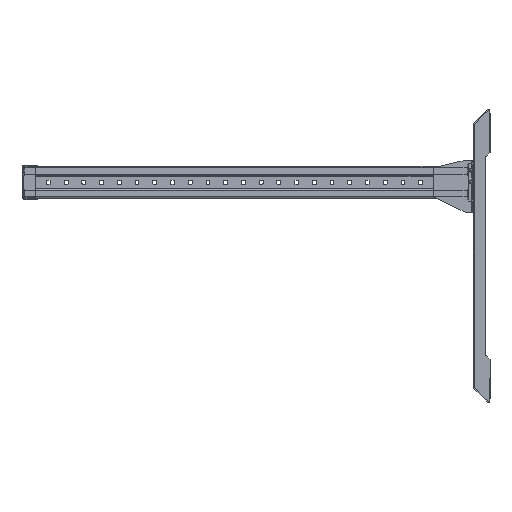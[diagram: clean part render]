
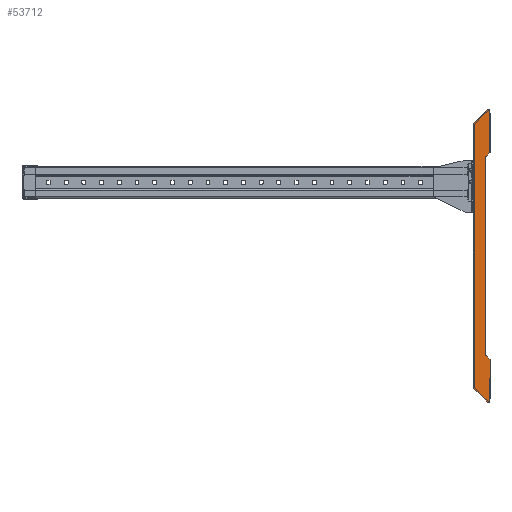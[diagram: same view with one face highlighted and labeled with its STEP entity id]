
A CAD part, left-side view. The second image highlights one B-rep face of the part: STEP entity #53712.
In plain terms, the highlighted planar face has unit normal (-1, 0, 0) as drawn and (1, 0, 0) by its records, which use the part's own axes.
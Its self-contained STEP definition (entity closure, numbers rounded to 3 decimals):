
#5956 = EDGE_CURVE ( 'NONE', #72643, #71926, #39613, .T. ) ;
#5957 = EDGE_CURVE ( 'NONE', #72643, #72867, #49933, .T. ) ;
#5958 = EDGE_CURVE ( 'NONE', #72867, #72719, #39601, .T. ) ;
#5959 = EDGE_CURVE ( 'NONE', #72719, #72161, #39595, .T. ) ;
#5964 = EDGE_CURVE ( 'NONE', #72528, #70157, #39565, .T. ) ;
#5965 = EDGE_CURVE ( 'NONE', #72964, #70157, #39559, .T. ) ;
#5966 = EDGE_CURVE ( 'NONE', #72803, #72964, #39553, .T. ) ;
#5967 = EDGE_CURVE ( 'NONE', #72803, #72810, #39547, .T. ) ;
#5968 = EDGE_CURVE ( 'NONE', #72810, #72750, #49932, .T. ) ;
#5969 = EDGE_CURVE ( 'NONE', #72750, #72263, #39535, .T. ) ;
#5970 = EDGE_CURVE ( 'NONE', #72263, #72431, #39529, .T. ) ;
#5971 = EDGE_CURVE ( 'NONE', #72431, #71926, #49930, .T. ) ;
#5978 = EDGE_CURVE ( 'NONE', #72528, #69821, #39481, .T. ) ;
#5979 = EDGE_CURVE ( 'NONE', #72161, #69821, #49929, .T. ) ;
#7746 = VECTOR ( 'NONE', #39549, 1000. ) ;
#7758 = VECTOR ( 'NONE', #39477, 1000. ) ;
#7762 = AXIS2_PLACEMENT_3D ( 'NONE', #39519, #39475, #39473 ) ;
#7766 = VECTOR ( 'NONE', #39525, 1000. ) ;
#7767 = VECTOR ( 'NONE', #39531, 1000. ) ;
#7768 = VECTOR ( 'NONE', #39543, 1000. ) ;
#7781 = AXIS2_PLACEMENT_3D ( 'NONE', #39615, #39607, #39605 ) ;
#7789 = VECTOR ( 'NONE', #39555, 1000. ) ;
#7794 = VECTOR ( 'NONE', #39597, 1000. ) ;
#7797 = VECTOR ( 'NONE', #39561, 1000. ) ;
#7801 = AXIS2_PLACEMENT_3D ( 'NONE', #39603, #39541, #39539 ) ;
#7804 = VECTOR ( 'NONE', #39609, 1000. ) ;
#7816 = AXIS2_PLACEMENT_3D ( 'NONE', #39537, #39523, #39521 ) ;
#7835 = VECTOR ( 'NONE', #39591, 1000. ) ;
#39473 = DIRECTION ( 'NONE',  ( 0., -1., 0. ) ) ;
#39475 = DIRECTION ( 'NONE',  ( 1., 0., 0. ) ) ;
#39477 = DIRECTION ( 'NONE',  ( 0., -0.707, -0.707 ) ) ;
#39479 = CARTESIAN_POINT ( 'NONE',  ( 50., 0.25, -331.75 ) ) ;
#39481 = LINE ( 'NONE', #39479, #7758 ) ;
#39519 = CARTESIAN_POINT ( 'NONE',  ( 50., -36.926, -363.977 ) ) ;
#39521 = DIRECTION ( 'NONE',  ( 0., 1., 0. ) ) ;
#39523 = DIRECTION ( 'NONE',  ( -1., 0., 0. ) ) ;
#39525 = DIRECTION ( 'NONE',  ( 0., 0.707, -0.707 ) ) ;
#39527 = CARTESIAN_POINT ( 'NONE',  ( 50., -40.426, 259.315 ) ) ;
#39529 = LINE ( 'NONE', #39527, #7766 ) ;
#39531 = DIRECTION ( 'NONE',  ( 0., 0., -1. ) ) ;
#39533 = CARTESIAN_POINT ( 'NONE',  ( 50., -40.426, 351.226 ) ) ;
#39535 = LINE ( 'NONE', #39533, #7767 ) ;
#39537 = CARTESIAN_POINT ( 'NONE',  ( 50., -37., 243.161 ) ) ;
#39539 = DIRECTION ( 'NONE',  ( 0., 1., 0. ) ) ;
#39541 = DIRECTION ( 'NONE',  ( 1., 0., 0. ) ) ;
#39543 = DIRECTION ( 'NONE',  ( 0., -0.707, 0.707 ) ) ;
#39545 = CARTESIAN_POINT ( 'NONE',  ( 50., 0.25, 331.75 ) ) ;
#39547 = LINE ( 'NONE', #39545, #7768 ) ;
#39549 = DIRECTION ( 'NONE',  ( 0., -0.707, -0.707 ) ) ;
#39551 = CARTESIAN_POINT ( 'NONE',  ( 50., 0.25, 331.75 ) ) ;
#39553 = LINE ( 'NONE', #39551, #7746 ) ;
#39555 = DIRECTION ( 'NONE',  ( 0., 0., -1. ) ) ;
#39557 = CARTESIAN_POINT ( 'NONE',  ( 50., -1.5, -330. ) ) ;
#39559 = LINE ( 'NONE', #39557, #7789 ) ;
#39561 = DIRECTION ( 'NONE',  ( 0., -0.707, 0.707 ) ) ;
#39563 = CARTESIAN_POINT ( 'NONE',  ( 50., 0.25, -331.75 ) ) ;
#39565 = LINE ( 'NONE', #39563, #7797 ) ;
#39591 = DIRECTION ( 'NONE',  ( 0., 0., -1. ) ) ;
#39593 = CARTESIAN_POINT ( 'NONE',  ( 50., -40.426, -351.226 ) ) ;
#39595 = LINE ( 'NONE', #39593, #7835 ) ;
#39597 = DIRECTION ( 'NONE',  ( 0., -0.707, -0.707 ) ) ;
#39599 = CARTESIAN_POINT ( 'NONE',  ( 50., -40.426, -259.315 ) ) ;
#39601 = LINE ( 'NONE', #39599, #7794 ) ;
#39603 = CARTESIAN_POINT ( 'NONE',  ( 50., -36.926, 363.977 ) ) ;
#39605 = DIRECTION ( 'NONE',  ( 0., 1., 0. ) ) ;
#39607 = DIRECTION ( 'NONE',  ( -1., 0., 0. ) ) ;
#39609 = DIRECTION ( 'NONE',  ( 0., 0., 1. ) ) ;
#39611 = CARTESIAN_POINT ( 'NONE',  ( 50., -28., 330. ) ) ;
#39613 = LINE ( 'NONE', #39611, #7804 ) ;
#39615 = CARTESIAN_POINT ( 'NONE',  ( 50., -37., -243.161 ) ) ;
#42451 = PLANE ( 'NONE',  #47652 ) ;
#42452 = CARTESIAN_POINT ( 'NONE',  ( 50., 0.25, -331.75 ) ) ;
#42453 = DIRECTION ( 'NONE',  ( -1., 0., 0. ) ) ;
#42454 = DIRECTION ( 'NONE',  ( 0., 0.707, 0.707 ) ) ;
#46076 = CARTESIAN_POINT ( 'NONE',  ( 50., -1.5, 330. ) ) ;
#47647 = FACE_OUTER_BOUND ( 'NONE', #85287, .T. ) ;
#47652 = AXIS2_PLACEMENT_3D ( 'NONE', #42452, #42453, #42454 ) ;
#49929 = CIRCLE ( 'NONE', #7762, 3.5 ) ;
#49930 = CIRCLE ( 'NONE', #7816, 9. ) ;
#49932 = CIRCLE ( 'NONE', #7801, 3.5 ) ;
#49933 = CIRCLE ( 'NONE', #7781, 9. ) ;
#53712 = ADVANCED_FACE ( 'NONE', ( #47647 ), #42451, .F. ) ;
#55393 = CARTESIAN_POINT ( 'NONE',  ( 50., -34.452, -366.452 ) ) ;
#55453 = CARTESIAN_POINT ( 'NONE',  ( 50., -1.5, -330. ) ) ;
#55620 = CARTESIAN_POINT ( 'NONE',  ( 50., -28., 243.161 ) ) ;
#55776 = CARTESIAN_POINT ( 'NONE',  ( 50., -40.426, -363.977 ) ) ;
#55853 = CARTESIAN_POINT ( 'NONE',  ( 50., -40.426, 259.315 ) ) ;
#56000 = CARTESIAN_POINT ( 'NONE',  ( 50., -30.636, 249.525 ) ) ;
#56076 = CARTESIAN_POINT ( 'NONE',  ( 50., 0.25, -331.75 ) ) ;
#56175 = CARTESIAN_POINT ( 'NONE',  ( 50., -28., -243.161 ) ) ;
#56236 = CARTESIAN_POINT ( 'NONE',  ( 50., -40.426, -259.315 ) ) ;
#56261 = CARTESIAN_POINT ( 'NONE',  ( 50., -40.426, 363.977 ) ) ;
#56301 = CARTESIAN_POINT ( 'NONE',  ( 50., 0.25, 331.75 ) ) ;
#56307 = CARTESIAN_POINT ( 'NONE',  ( 50., -34.452, 366.452 ) ) ;
#56357 = CARTESIAN_POINT ( 'NONE',  ( 50., -30.636, -249.525 ) ) ;
#69410 = ORIENTED_EDGE ( 'NONE', *, *, #5979, .T. ) ;
#69412 = ORIENTED_EDGE ( 'NONE', *, *, #5964, .T. ) ;
#69415 = ORIENTED_EDGE ( 'NONE', *, *, #5978, .F. ) ;
#69416 = ORIENTED_EDGE ( 'NONE', *, *, #5965, .F. ) ;
#69417 = ORIENTED_EDGE ( 'NONE', *, *, #5966, .F. ) ;
#69419 = ORIENTED_EDGE ( 'NONE', *, *, #5967, .T. ) ;
#69420 = ORIENTED_EDGE ( 'NONE', *, *, #5968, .T. ) ;
#69421 = ORIENTED_EDGE ( 'NONE', *, *, #5969, .T. ) ;
#69423 = ORIENTED_EDGE ( 'NONE', *, *, #5970, .T. ) ;
#69424 = ORIENTED_EDGE ( 'NONE', *, *, #5971, .T. ) ;
#69425 = ORIENTED_EDGE ( 'NONE', *, *, #5956, .F. ) ;
#69426 = ORIENTED_EDGE ( 'NONE', *, *, #5957, .T. ) ;
#69427 = ORIENTED_EDGE ( 'NONE', *, *, #5958, .T. ) ;
#69428 = ORIENTED_EDGE ( 'NONE', *, *, #5959, .T. ) ;
#69821 = VERTEX_POINT ( 'NONE', #55393 ) ;
#70157 = VERTEX_POINT ( 'NONE', #55453 ) ;
#71926 = VERTEX_POINT ( 'NONE', #55620 ) ;
#72161 = VERTEX_POINT ( 'NONE', #55776 ) ;
#72263 = VERTEX_POINT ( 'NONE', #55853 ) ;
#72431 = VERTEX_POINT ( 'NONE', #56000 ) ;
#72528 = VERTEX_POINT ( 'NONE', #56076 ) ;
#72643 = VERTEX_POINT ( 'NONE', #56175 ) ;
#72719 = VERTEX_POINT ( 'NONE', #56236 ) ;
#72750 = VERTEX_POINT ( 'NONE', #56261 ) ;
#72803 = VERTEX_POINT ( 'NONE', #56301 ) ;
#72810 = VERTEX_POINT ( 'NONE', #56307 ) ;
#72867 = VERTEX_POINT ( 'NONE', #56357 ) ;
#72964 = VERTEX_POINT ( 'NONE', #46076 ) ;
#85287 = EDGE_LOOP ( 'NONE', ( #69410, #69415, #69412, #69416, #69417, #69419, #69420, #69421, #69423, #69424, #69425, #69426, #69427, #69428 ) ) ;
